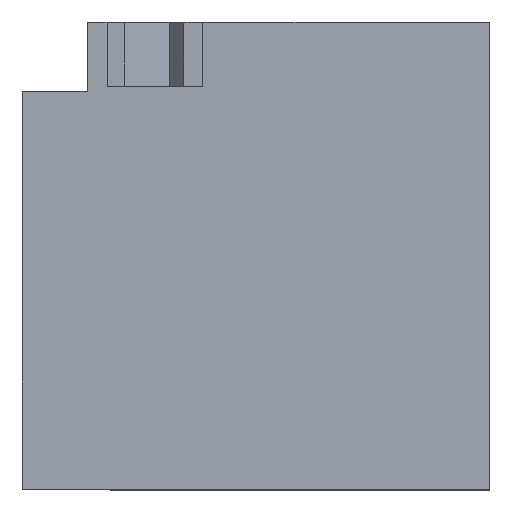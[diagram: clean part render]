
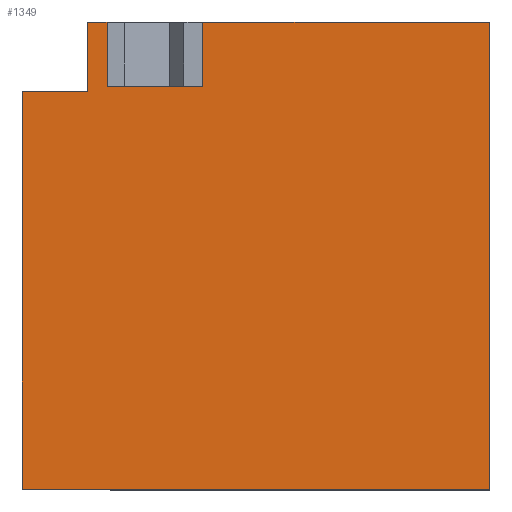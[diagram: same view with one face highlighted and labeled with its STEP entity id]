
A CAD part, top view. The second image highlights one B-rep face of the part: STEP entity #1349.
In plain terms, the highlighted planar face has unit normal (0, 0, 1).
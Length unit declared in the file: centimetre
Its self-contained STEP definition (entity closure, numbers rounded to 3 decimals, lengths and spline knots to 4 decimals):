
#61 = CARTESIAN_POINT ( 'NONE',  ( 385.9587, 1000., 1000. ) ) ;
#96 = VERTEX_POINT ( 'NONE', #1623 ) ;
#105 = EDGE_CURVE ( 'NONE', #1622, #1119, #212, .T. ) ;
#176 = ORIENTED_EDGE ( 'NONE', *, *, #1265, .T. ) ;
#181 = CARTESIAN_POINT ( 'NONE',  ( 0., 0., 1000. ) ) ;
#186 = VECTOR ( 'NONE', #726, 100. ) ;
#203 = CARTESIAN_POINT ( 'NONE',  ( 0., 851.2313, 1000. ) ) ;
#212 = LINE ( 'NONE', #736, #309 ) ;
#256 = VECTOR ( 'NONE', #860, 100. ) ;
#257 = CARTESIAN_POINT ( 'NONE',  ( 0., 1000., 1000. ) ) ;
#272 = DIRECTION ( 'NONE',  ( -1., 0., 0. ) ) ;
#284 = DIRECTION ( 'NONE',  ( 0., -1., 0. ) ) ;
#309 = VECTOR ( 'NONE', #1501, 100. ) ;
#362 = EDGE_CURVE ( 'NONE', #1354, #96, #843, .T. ) ;
#382 = CARTESIAN_POINT ( 'NONE',  ( 385.9587, 861.0862, 1000. ) ) ;
#451 = DIRECTION ( 'NONE',  ( 1., 0., 0. ) ) ;
#477 = EDGE_CURVE ( 'NONE', #1262, #1066, #997, .T. ) ;
#482 = VECTOR ( 'NONE', #284, 100. ) ;
#507 = VECTOR ( 'NONE', #1018, 100. ) ;
#546 = EDGE_CURVE ( 'NONE', #1119, #789, #1528, .T. ) ;
#564 = AXIS2_PLACEMENT_3D ( 'NONE', #1606, #1209, #451 ) ;
#576 = VERTEX_POINT ( 'NONE', #1427 ) ;
#594 = DIRECTION ( 'NONE',  ( 0., 1., 0. ) ) ;
#709 = CARTESIAN_POINT ( 'NONE',  ( 181.0948, 1000., 1000. ) ) ;
#726 = DIRECTION ( 'NONE',  ( -1., 0., 0. ) ) ;
#736 = CARTESIAN_POINT ( 'NONE',  ( 0., 0., 1000. ) ) ;
#746 = VERTEX_POINT ( 'NONE', #1536 ) ;
#747 = EDGE_CURVE ( 'NONE', #96, #1262, #1272, .T. ) ;
#750 = LINE ( 'NONE', #1515, #507 ) ;
#761 = DIRECTION ( 'NONE',  ( 1., 0., 0. ) ) ;
#789 = VERTEX_POINT ( 'NONE', #1133 ) ;
#799 = VECTOR ( 'NONE', #1060, 100. ) ;
#809 = FACE_OUTER_BOUND ( 'NONE', #941, .T. ) ;
#813 = CARTESIAN_POINT ( 'NONE',  ( 1000., 0., 1000. ) ) ;
#843 = LINE ( 'NONE', #876, #256 ) ;
#860 = DIRECTION ( 'NONE',  ( 0., -1., 0. ) ) ;
#876 = CARTESIAN_POINT ( 'NONE',  ( 181.0948, 861.0862, 1000. ) ) ;
#880 = VECTOR ( 'NONE', #594, 100. ) ;
#922 = PLANE ( 'NONE',  #564 ) ;
#924 = LINE ( 'NONE', #934, #482 ) ;
#929 = VECTOR ( 'NONE', #1019, 100. ) ;
#934 = CARTESIAN_POINT ( 'NONE',  ( 0., 1000., 1000. ) ) ;
#941 = EDGE_LOOP ( 'NONE', ( #1548, #1099, #970, #1578, #176, #1562, #1455, #1190, #1407, #966 ) ) ;
#966 = ORIENTED_EDGE ( 'NONE', *, *, #1312, .T. ) ;
#970 = ORIENTED_EDGE ( 'NONE', *, *, #105, .T. ) ;
#972 = EDGE_CURVE ( 'NONE', #1354, #1459, #1541, .T. ) ;
#982 = EDGE_CURVE ( 'NONE', #746, #1622, #924, .T. ) ;
#997 = LINE ( 'NONE', #1521, #880 ) ;
#1018 = DIRECTION ( 'NONE',  ( 0., -1., 0. ) ) ;
#1019 = DIRECTION ( 'NONE',  ( 0., 1., 0. ) ) ;
#1060 = DIRECTION ( 'NONE',  ( -1., 0., 0. ) ) ;
#1066 = VERTEX_POINT ( 'NONE', #61 ) ;
#1099 = ORIENTED_EDGE ( 'NONE', *, *, #982, .T. ) ;
#1119 = VERTEX_POINT ( 'NONE', #813 ) ;
#1133 = CARTESIAN_POINT ( 'NONE',  ( 1000., 1000., 1000. ) ) ;
#1190 = ORIENTED_EDGE ( 'NONE', *, *, #362, .F. ) ;
#1209 = DIRECTION ( 'NONE',  ( 0., 0., 1. ) ) ;
#1221 = CARTESIAN_POINT ( 'NONE',  ( 138.7734, 1000., 1000. ) ) ;
#1262 = VERTEX_POINT ( 'NONE', #382 ) ;
#1265 = EDGE_CURVE ( 'NONE', #789, #1066, #1417, .T. ) ;
#1272 = LINE ( 'NONE', #1658, #1533 ) ;
#1276 = CARTESIAN_POINT ( 'NONE',  ( 0., 1000., 1000. ) ) ;
#1284 = CARTESIAN_POINT ( 'NONE',  ( 1000., 1000., 1000. ) ) ;
#1312 = EDGE_CURVE ( 'NONE', #1459, #576, #750, .T. ) ;
#1349 = ADVANCED_FACE ( 'NONE', ( #809 ), #922, .T. ) ;
#1354 = VERTEX_POINT ( 'NONE', #709 ) ;
#1407 = ORIENTED_EDGE ( 'NONE', *, *, #972, .T. ) ;
#1417 = LINE ( 'NONE', #257, #1449 ) ;
#1427 = CARTESIAN_POINT ( 'NONE',  ( 138.7734, 851.2313, 1000. ) ) ;
#1449 = VECTOR ( 'NONE', #272, 100. ) ;
#1455 = ORIENTED_EDGE ( 'NONE', *, *, #747, .F. ) ;
#1459 = VERTEX_POINT ( 'NONE', #1221 ) ;
#1501 = DIRECTION ( 'NONE',  ( 1., 0., 0. ) ) ;
#1512 = EDGE_CURVE ( 'NONE', #576, #746, #1625, .T. ) ;
#1515 = CARTESIAN_POINT ( 'NONE',  ( 138.7734, 851.2313, 1000. ) ) ;
#1521 = CARTESIAN_POINT ( 'NONE',  ( 385.9587, 861.0862, 1000. ) ) ;
#1528 = LINE ( 'NONE', #1284, #929 ) ;
#1533 = VECTOR ( 'NONE', #761, 100. ) ;
#1536 = CARTESIAN_POINT ( 'NONE',  ( 0., 851.2313, 1000. ) ) ;
#1541 = LINE ( 'NONE', #1276, #799 ) ;
#1548 = ORIENTED_EDGE ( 'NONE', *, *, #1512, .T. ) ;
#1562 = ORIENTED_EDGE ( 'NONE', *, *, #477, .F. ) ;
#1578 = ORIENTED_EDGE ( 'NONE', *, *, #546, .T. ) ;
#1606 = CARTESIAN_POINT ( 'NONE',  ( 0., 0., 1000. ) ) ;
#1622 = VERTEX_POINT ( 'NONE', #181 ) ;
#1623 = CARTESIAN_POINT ( 'NONE',  ( 181.0948, 861.0862, 1000. ) ) ;
#1625 = LINE ( 'NONE', #203, #186 ) ;
#1658 = CARTESIAN_POINT ( 'NONE',  ( 181.0948, 861.0862, 1000. ) ) ;
